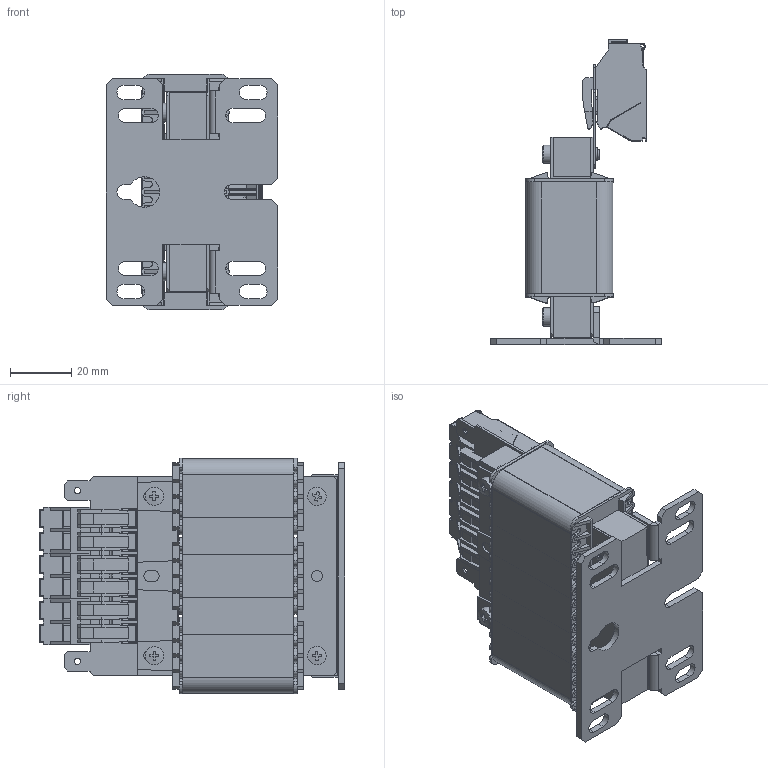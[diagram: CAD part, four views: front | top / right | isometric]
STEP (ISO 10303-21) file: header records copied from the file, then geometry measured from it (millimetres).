
FILE_DESCRIPTION (( 'STEP AP214' ), '1' );
FILE_NAME ('PCT-002.STEP', '2015-04-28T09:35:54', ( 'EDV' ), ( 'Microsoft' ), 'SwSTEP 2.0', 'SolidWorks 2014', '' );
FILE_SCHEMA (( 'AUTOMOTIVE_DESIGN' ));
Length unit declared in the file: millimetre
Products named in the file (10): PCT-002; Wickelabdeckung 3UI 39_13,8; #080-0487; M3x16-DIN7985; BTK 4_2 +2202-0006; #040-0868d; WickelUI39_13,8_1oD; UI39_13,8oD; #144-0144; 3UI39-12,2_Luftspalt0,4mm
Assembly tree (19 placements, depth 2):
  PCT-002
    3UI39-12,2_Luftspalt0,4mm
    #144-0144  x2
    UI39_13,8oD  x3
    WickelUI39_13,8_1oD  x3
    #040-0868d
    BTK 4_2 +2202-0006  x3
    M3x16-DIN7985  x4
    #080-0487
    Wickelabdeckung 3UI 39_13,8
Bounding box: 56 x 99.55 x 77 mm (x, y, z)
Volume: 120910.6 mm3; surface area: 110249.5 mm2
Topology: 21 solids, 21 shells, 6075 faces, 16942 edges, 11039 vertices
Faces by surface type: plane 4857, cylinder 861, bspline 310, torus 43, sphere 4
Full cylindrical faces by diameter (mm): 2 x2, 2.5 x2, 2.7 x2, 2.994 x1, 3 x4, 3.5 x4, 3.65 x6, 4.1 x2, 6 x4, 6.95 x2, 7.15 x2
Entity records: 81181 total; most frequent: CARTESIAN_POINT 20837, ORIENTED_EDGE 12740, DIRECTION 10911, EDGE_CURVE 6370, LINE 5349, VECTOR 5349, VERTEX_POINT 4176, AXIS2_PLACEMENT_3D 2781
